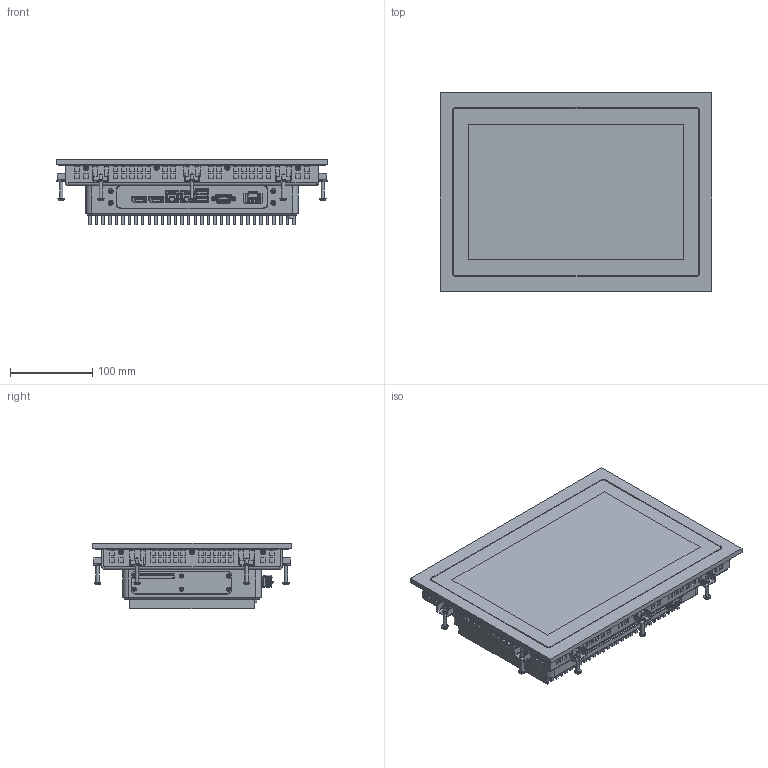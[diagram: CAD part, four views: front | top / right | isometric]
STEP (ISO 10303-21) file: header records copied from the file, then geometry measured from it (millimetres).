
FILE_DESCRIPTION(/* description */ (''),/* implementation_level */ '2;1');
FILE_NAME(/* name */ 'D:\Modelle vereinfacht\notion.S\CPU Intel Atom 7\12,1 Zoll\778-11975-00\778-11975-00_EXTERN.stp',/* time_stamp */ '2025-09-08T10:14:19+02:00',/* author */ ('Blessing'),/* organization */ (''),/* preprocessor_version */ 'ST-DEVELOPER v18.1',/* originating_system */ 'Autodesk Inventor 2021',/* authorisation */ '');
FILE_SCHEMA (('CONFIG_CONTROL_DESIGN'));
Products named in the file (3): Baugruppe1; 778-11975-00; 778-90247_Shrinkwrap_1
Assembly tree (2 placements, depth 2):
  Baugruppe1
    778-11975-00
    778-90247_Shrinkwrap_1
Bounding box: 330 x 241 x 79.4 mm (x, y, z)
Volume: 3868257.5 mm3; surface area: 412101.3 mm2
Topology: 12 solids, 20 shells, 8529 faces, 23112 edges, 14837 vertices
Faces by surface type: plane 5870, cylinder 1762, bspline 511, cone 292, torus 61, sphere 33
Full cylindrical faces by diameter (mm): 0.434 x1, 0.457 x1, 0.5 x26, 0.6 x16, 0.65 x2, 0.7 x2, 0.8 x20, 0.9 x2, 1.4 x2, 2.156 x2, 2.5 x2, 2.794 x2, 2.8 x2, 4 x22, 4.7 x8, 5.54 x18, 6 x4, 6.2 x10, 7 x1, 7.2 x10
Entity records: 297740 total; most frequent: CARTESIAN_POINT 76202, ORIENTED_EDGE 45944, DIRECTION 41196, EDGE_CURVE 23091, LINE 17298, VECTOR 17298, VERTEX_POINT 14861, AXIS2_PLACEMENT_3D 11949
